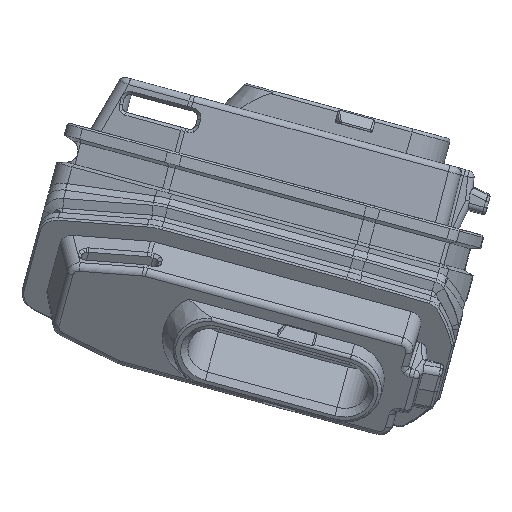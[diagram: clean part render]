
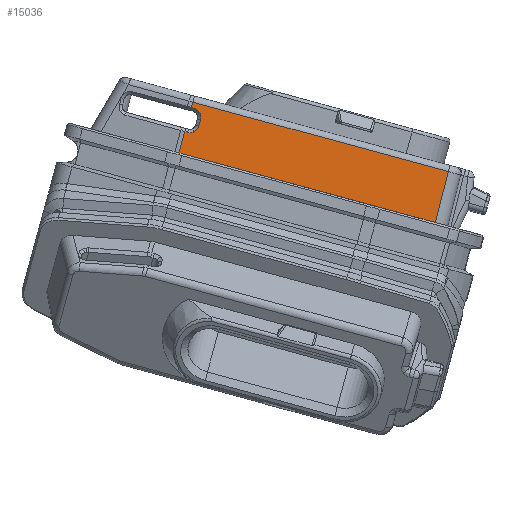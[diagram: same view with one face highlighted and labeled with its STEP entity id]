
A CAD part, front view. The second image highlights one B-rep face of the part: STEP entity #15036.
In plain terms, the highlighted planar face has unit normal (0.005, -1, 0.017).
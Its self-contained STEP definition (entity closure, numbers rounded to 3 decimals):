
#1406=PLANE('',#16271);
#2193=FACE_OUTER_BOUND('',#3119,.T.);
#3119=EDGE_LOOP('',(#13222,#13223,#13224,#13225,#13226,#13227,#13228,#13229,
#13230,#13231,#13232,#13233,#13234,#13235));
#3563=B_SPLINE_CURVE_WITH_KNOTS('',3,(#26076,#26077,#26078,#26079,#26080,
#26081,#26082,#26083),.UNSPECIFIED.,.F.,.F.,(4,2,2,4),(0.076,
0.077,0.114,0.152),.UNSPECIFIED.);
#3570=B_SPLINE_CURVE_WITH_KNOTS('',3,(#26237,#26238,#26239,#26240),
 .UNSPECIFIED.,.F.,.F.,(4,4),(0.152,0.153),
 .UNSPECIFIED.);
#3574=B_SPLINE_CURVE_WITH_KNOTS('',3,(#26293,#26294,#26295,#26296,#26297,
#26298,#26299,#26300),.UNSPECIFIED.,.F.,.F.,(4,2,2,4),(0.076,
0.077,0.114,0.152),.UNSPECIFIED.);
#3575=B_SPLINE_CURVE_WITH_KNOTS('',3,(#26335,#26336,#26337,#26338,#26339,
#26340),.UNSPECIFIED.,.F.,.F.,(4,2,4),(0.,0.022,
0.044),.UNSPECIFIED.);
#3578=B_SPLINE_CURVE_WITH_KNOTS('',3,(#26394,#26395,#26396,#26397,#26398,
#26399,#26400,#26401,#26402),.UNSPECIFIED.,.F.,.F.,(4,1,1,1,1,1,4),(0.,
0.003,0.005,0.011,0.022,
0.033,0.076),.UNSPECIFIED.);
#3596=B_SPLINE_CURVE_WITH_KNOTS('',3,(#27203,#27204,#27205,#27206,#27207,
#27208),.UNSPECIFIED.,.F.,.F.,(4,2,4),(0.001,0.038,
0.076),.UNSPECIFIED.);
#3598=B_SPLINE_CURVE_WITH_KNOTS('',3,(#27242,#27243,#27244,#27245,#27246,
#27247),.UNSPECIFIED.,.F.,.F.,(4,2,4),(-0.044,-0.022,
0.),.UNSPECIFIED.);
#3600=B_SPLINE_CURVE_WITH_KNOTS('',3,(#27268,#27269,#27270,#27271),
 .UNSPECIFIED.,.F.,.F.,(4,4),(0.,0.001),
 .UNSPECIFIED.);
#3985=LINE('',#26303,#5082);
#4008=LINE('',#27479,#5105);
#4699=LINE('',#34799,#5796);
#4700=LINE('',#34801,#5797);
#4701=LINE('',#34803,#5798);
#4702=LINE('',#34804,#5799);
#5082=VECTOR('',#17031,10.);
#5105=VECTOR('',#17062,10.);
#5796=VECTOR('',#19531,10.);
#5797=VECTOR('',#19532,1000.);
#5798=VECTOR('',#19533,1000.);
#5799=VECTOR('',#19534,1000.);
#6334=VERTEX_POINT('',#26069);
#6336=VERTEX_POINT('',#26075);
#6344=VERTEX_POINT('',#26230);
#6346=VERTEX_POINT('',#26236);
#6349=VERTEX_POINT('',#26288);
#6350=VERTEX_POINT('',#26302);
#6353=VERTEX_POINT('',#26332);
#6354=VERTEX_POINT('',#26334);
#6371=VERTEX_POINT('',#27201);
#6372=VERTEX_POINT('',#27233);
#6392=VERTEX_POINT('',#27478);
#7181=VERTEX_POINT('',#34798);
#7182=VERTEX_POINT('',#34800);
#7183=VERTEX_POINT('',#34802);
#7846=EDGE_CURVE('',#6334,#6336,#3563,.T.);
#7857=EDGE_CURVE('',#6344,#6346,#3570,.T.);
#7862=EDGE_CURVE('',#6349,#6344,#3574,.T.);
#7863=EDGE_CURVE('',#6346,#6350,#3985,.T.);
#7867=EDGE_CURVE('',#6353,#6354,#3575,.T.);
#7871=EDGE_CURVE('',#6354,#6349,#3578,.T.);
#7896=EDGE_CURVE('',#6371,#6334,#3596,.T.);
#7899=EDGE_CURVE('',#6336,#6372,#3598,.T.);
#7901=EDGE_CURVE('',#6350,#6371,#3600,.T.);
#7928=EDGE_CURVE('',#6392,#6372,#4008,.T.);
#9246=EDGE_CURVE('',#6353,#7181,#4699,.T.);
#9247=EDGE_CURVE('',#7182,#7181,#4700,.T.);
#9248=EDGE_CURVE('',#7182,#7183,#4701,.T.);
#9249=EDGE_CURVE('',#7183,#6392,#4702,.T.);
#13222=ORIENTED_EDGE('',*,*,#7867,.F.);
#13223=ORIENTED_EDGE('',*,*,#9246,.T.);
#13224=ORIENTED_EDGE('',*,*,#9247,.F.);
#13225=ORIENTED_EDGE('',*,*,#9248,.T.);
#13226=ORIENTED_EDGE('',*,*,#9249,.T.);
#13227=ORIENTED_EDGE('',*,*,#7928,.T.);
#13228=ORIENTED_EDGE('',*,*,#7899,.F.);
#13229=ORIENTED_EDGE('',*,*,#7846,.F.);
#13230=ORIENTED_EDGE('',*,*,#7896,.F.);
#13231=ORIENTED_EDGE('',*,*,#7901,.F.);
#13232=ORIENTED_EDGE('',*,*,#7863,.F.);
#13233=ORIENTED_EDGE('',*,*,#7857,.F.);
#13234=ORIENTED_EDGE('',*,*,#7862,.F.);
#13235=ORIENTED_EDGE('',*,*,#7871,.F.);
#15036=ADVANCED_FACE('',(#2193),#1406,.T.);
#16271=AXIS2_PLACEMENT_3D('',#34797,#19529,#19530);
#17031=DIRECTION('',(0.262,0.017,0.965));
#17062=DIRECTION('',(-0.264,-0.017,-0.964));
#19529=DIRECTION('center_axis',(0.005,-1.,
0.017));
#19530=DIRECTION('ref_axis',(0.,-0.017,-1.));
#19531=DIRECTION('',(-0.264,-0.017,-0.964));
#19532=DIRECTION('',(-0.965,0.,0.262));
#19533=DIRECTION('',(0.245,0.017,0.969));
#19534=DIRECTION('',(-0.965,0.,0.262));
#26069=CARTESIAN_POINT('',(-2.585,-8.979,-175.599));
#26075=CARTESIAN_POINT('',(-3.466,-8.972,-174.917));
#26076=CARTESIAN_POINT('Ctrl Pts',(-2.585,-8.979,
-175.599));
#26077=CARTESIAN_POINT('Ctrl Pts',(-2.586,-8.979,
-175.596));
#26078=CARTESIAN_POINT('Ctrl Pts',(-2.588,-8.979,
-175.594));
#26079=CARTESIAN_POINT('Ctrl Pts',(-2.679,-8.977,
-175.435));
#26080=CARTESIAN_POINT('Ctrl Pts',(-2.801,-8.975,
-175.287));
#26081=CARTESIAN_POINT('Ctrl Pts',(-3.113,-8.972,
-175.046));
#26082=CARTESIAN_POINT('Ctrl Pts',(-3.29,-8.972,
-174.965));
#26083=CARTESIAN_POINT('Ctrl Pts',(-3.466,-8.972,
-174.917));
#26230=CARTESIAN_POINT('',(-2.706,-9.014,-177.668));
#26236=CARTESIAN_POINT('',(-2.704,-9.014,-177.66));
#26237=CARTESIAN_POINT('Ctrl Pts',(-2.706,-9.014,-177.668));
#26238=CARTESIAN_POINT('Ctrl Pts',(-2.705,-9.014,
-177.665));
#26239=CARTESIAN_POINT('Ctrl Pts',(-2.704,-9.014,
-177.662));
#26240=CARTESIAN_POINT('Ctrl Pts',(-2.704,-9.014,
-177.66));
#26288=CARTESIAN_POINT('',(-3.388,-9.032,-178.55));
#26293=CARTESIAN_POINT('Ctrl Pts',(-3.388,-9.032,
-178.55));
#26294=CARTESIAN_POINT('Ctrl Pts',(-3.385,-9.032,
-178.548));
#26295=CARTESIAN_POINT('Ctrl Pts',(-3.383,-9.032,
-178.547));
#26296=CARTESIAN_POINT('Ctrl Pts',(-3.224,-9.03,
-178.455));
#26297=CARTESIAN_POINT('Ctrl Pts',(-3.076,-9.027,
-178.333));
#26298=CARTESIAN_POINT('Ctrl Pts',(-2.835,-9.021,
-178.021));
#26299=CARTESIAN_POINT('Ctrl Pts',(-2.754,-9.018,
-177.845));
#26300=CARTESIAN_POINT('Ctrl Pts',(-2.706,-9.014,-177.668));
#26302=CARTESIAN_POINT('',(-2.444,-8.997,-176.703));
#26303=CARTESIAN_POINT('',(-3.176,-9.046,-179.397));
#26332=CARTESIAN_POINT('',(-4.918,-9.04,-178.575));
#26334=CARTESIAN_POINT('',(-4.493,-9.04,-178.691));
#26335=CARTESIAN_POINT('Ctrl Pts',(-4.918,-9.04,
-178.575));
#26336=CARTESIAN_POINT('Ctrl Pts',(-4.847,-9.04,
-178.594));
#26337=CARTESIAN_POINT('Ctrl Pts',(-4.776,-9.04,-178.614));
#26338=CARTESIAN_POINT('Ctrl Pts',(-4.635,-9.04,
-178.652));
#26339=CARTESIAN_POINT('Ctrl Pts',(-4.564,-9.04,-178.672));
#26340=CARTESIAN_POINT('Ctrl Pts',(-4.493,-9.04,
-178.691));
#26394=CARTESIAN_POINT('Ctrl Pts',(-4.493,-9.04,
-178.69));
#26395=CARTESIAN_POINT('Ctrl Pts',(-4.484,-9.04,
-178.693));
#26396=CARTESIAN_POINT('Ctrl Pts',(-4.457,-9.04,
-178.7));
#26397=CARTESIAN_POINT('Ctrl Pts',(-4.407,-9.04,
-178.712));
#26398=CARTESIAN_POINT('Ctrl Pts',(-4.314,-9.04,
-178.73));
#26399=CARTESIAN_POINT('Ctrl Pts',(-4.181,-9.039,
-178.744));
#26400=CARTESIAN_POINT('Ctrl Pts',(-3.843,-9.038,-178.744));
#26401=CARTESIAN_POINT('Ctrl Pts',(-3.569,-9.035,-178.653));
#26402=CARTESIAN_POINT('Ctrl Pts',(-3.388,-9.032,
-178.55));
#27201=CARTESIAN_POINT('',(-2.44,-8.997,-176.691));
#27203=CARTESIAN_POINT('Ctrl Pts',(-2.44,-8.997,
-176.691));
#27204=CARTESIAN_POINT('Ctrl Pts',(-2.395,-8.994,
-176.517));
#27205=CARTESIAN_POINT('Ctrl Pts',(-2.377,-8.99,
-176.329));
#27206=CARTESIAN_POINT('Ctrl Pts',(-2.427,-8.984,
-175.939));
#27207=CARTESIAN_POINT('Ctrl Pts',(-2.494,-8.981,
-175.757));
#27208=CARTESIAN_POINT('Ctrl Pts',(-2.585,-8.979,
-175.599));
#27233=CARTESIAN_POINT('',(-3.885,-8.972,-174.803));
#27242=CARTESIAN_POINT('Ctrl Pts',(-3.466,-8.972,
-174.916));
#27243=CARTESIAN_POINT('Ctrl Pts',(-3.536,-8.972,-174.897));
#27244=CARTESIAN_POINT('Ctrl Pts',(-3.607,-8.972,-174.878));
#27245=CARTESIAN_POINT('Ctrl Pts',(-3.746,-8.972,
-174.841));
#27246=CARTESIAN_POINT('Ctrl Pts',(-3.815,-8.972,
-174.822));
#27247=CARTESIAN_POINT('Ctrl Pts',(-3.885,-8.972,
-174.803));
#27268=CARTESIAN_POINT('Ctrl Pts',(-2.444,-8.997,
-176.703));
#27269=CARTESIAN_POINT('Ctrl Pts',(-2.442,-8.997,-176.699));
#27270=CARTESIAN_POINT('Ctrl Pts',(-2.441,-8.997,-176.695));
#27271=CARTESIAN_POINT('Ctrl Pts',(-2.44,-8.997,
-176.691));
#27478=CARTESIAN_POINT('',(-3.656,-8.957,-173.97));
#27479=CARTESIAN_POINT('',(-3.656,-8.957,-173.97));
#34797=CARTESIAN_POINT('Origin',(9.326,-9.1,-186.015));
#34798=CARTESIAN_POINT('',(-5.827,-9.1,-181.896));
#34799=CARTESIAN_POINT('',(-4.786,-9.031,-178.093));
#34800=CARTESIAN_POINT('',(34.241,-9.1,-192.788));
#34801=CARTESIAN_POINT('',(9.326,-9.1,-186.015));
#34802=CARTESIAN_POINT('',(36.258,-8.957,-184.821));
#34803=CARTESIAN_POINT('',(36.491,-8.94,-183.902));
#34804=CARTESIAN_POINT('',(-3.655,-8.957,-173.971));
